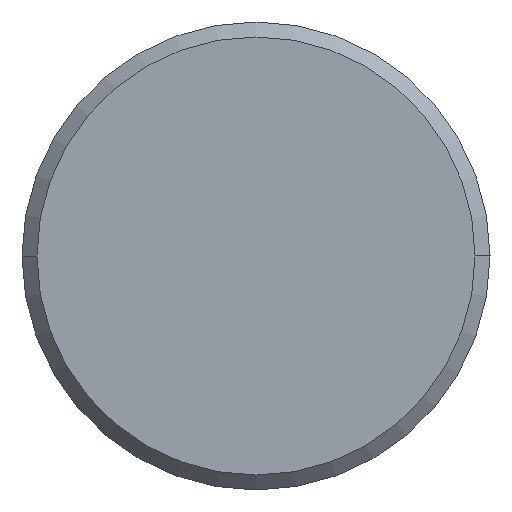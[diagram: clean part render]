
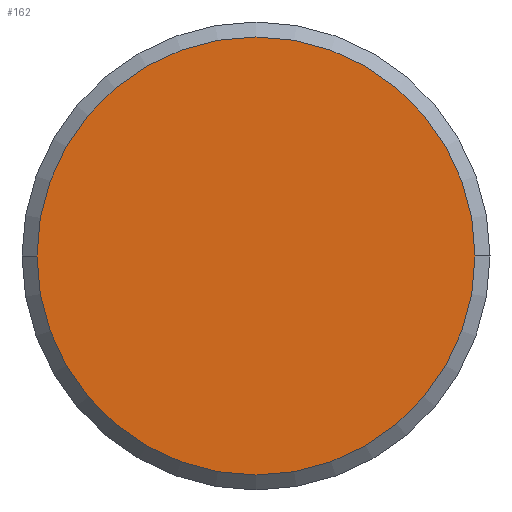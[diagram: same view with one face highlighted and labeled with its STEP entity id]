
A CAD part, left-side view. The second image highlights one B-rep face of the part: STEP entity #162.
In plain terms, the highlighted planar face has unit normal (-1, 0, 0).
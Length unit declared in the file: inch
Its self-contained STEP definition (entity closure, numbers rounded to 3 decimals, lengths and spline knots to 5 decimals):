
#17 = VERTEX_POINT ( 'NONE', #283 ) ;
#22 = ORIENTED_EDGE ( 'NONE', *, *, #114, .T. ) ;
#47 = DIRECTION ( 'NONE',  ( 0., -1., 0. ) ) ;
#71 = CARTESIAN_POINT ( 'NONE',  ( 0., -0.0585, 0. ) ) ;
#81 = EDGE_CURVE ( 'NONE', #250, #17, #84, .T. ) ;
#84 = CIRCLE ( 'NONE', #126, 0.0585 ) ;
#91 = ORIENTED_EDGE ( 'NONE', *, *, #81, .T. ) ;
#105 = DIRECTION ( 'NONE',  ( -1., 0., 0. ) ) ;
#114 = EDGE_CURVE ( 'NONE', #17, #250, #372, .T. ) ;
#126 = AXIS2_PLACEMENT_3D ( 'NONE', #155, #326, #243 ) ;
#140 = DIRECTION ( 'NONE',  ( 0., -1., 0. ) ) ;
#155 = CARTESIAN_POINT ( 'NONE',  ( 0., 0., 0. ) ) ;
#162 = ADVANCED_FACE ( 'NONE', ( #357 ), #298, .T. ) ;
#195 = DIRECTION ( 'NONE',  ( -1., 0., 0. ) ) ;
#201 = EDGE_LOOP ( 'NONE', ( #22, #91 ) ) ;
#229 = AXIS2_PLACEMENT_3D ( 'NONE', #248, #195, #140 ) ;
#243 = DIRECTION ( 'NONE',  ( 0., -1., 0. ) ) ;
#248 = CARTESIAN_POINT ( 'NONE',  ( 0., 0., 0. ) ) ;
#250 = VERTEX_POINT ( 'NONE', #71 ) ;
#270 = CARTESIAN_POINT ( 'NONE',  ( 0., 0., 0. ) ) ;
#283 = CARTESIAN_POINT ( 'NONE',  ( 0., 0.0585, 0. ) ) ;
#298 = PLANE ( 'NONE',  #324 ) ;
#324 = AXIS2_PLACEMENT_3D ( 'NONE', #270, #105, #47 ) ;
#326 = DIRECTION ( 'NONE',  ( -1., 0., 0. ) ) ;
#357 = FACE_OUTER_BOUND ( 'NONE', #201, .T. ) ;
#372 = CIRCLE ( 'NONE', #229, 0.0585 ) ;
